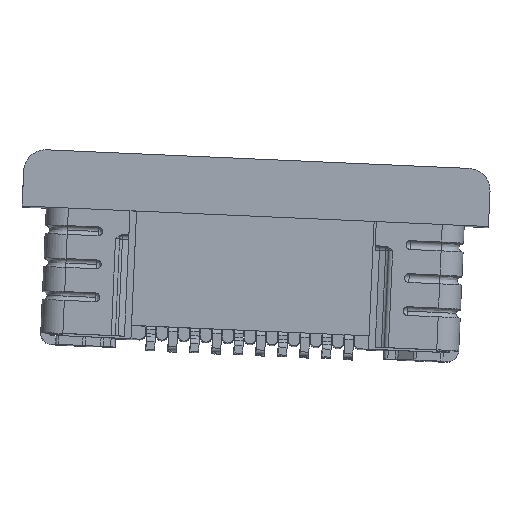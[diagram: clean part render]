
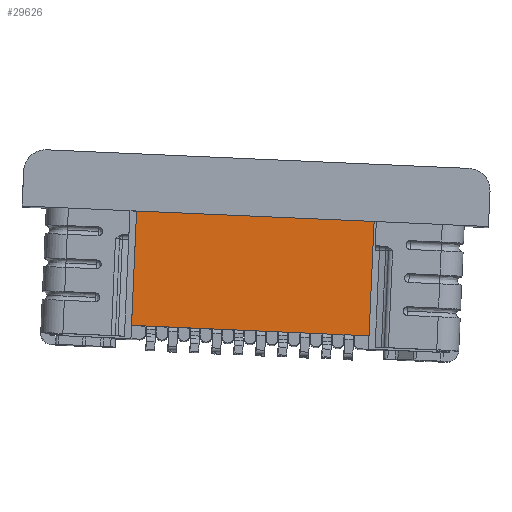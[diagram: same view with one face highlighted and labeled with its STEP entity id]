
A CAD part, front view. The second image highlights one B-rep face of the part: STEP entity #29626.
In plain terms, the highlighted planar face has unit normal (0.002, -1, 0.015) as drawn and (0, -1, 0) by its records, which use the part's own axes.
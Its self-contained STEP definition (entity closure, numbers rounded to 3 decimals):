
#2395 = DIRECTION ( 'NONE',  ( -1., 0., 0. ) ) ;
#5374 = EDGE_CURVE ( 'NONE', #23356, #19471, #36848, .T. ) ;
#5741 = VECTOR ( 'NONE', #31633, 1000. ) ;
#7225 = AXIS2_PLACEMENT_3D ( 'NONE', #9641, #19468, #29073 ) ;
#9314 = CARTESIAN_POINT ( 'NONE',  ( 17.7, -1., 3.284 ) ) ;
#9636 = VERTEX_POINT ( 'NONE', #14559 ) ;
#9641 = CARTESIAN_POINT ( 'NONE',  ( 8.821, -1., 3.284 ) ) ;
#9845 = DIRECTION ( 'NONE',  ( 0., 0., -1. ) ) ;
#11852 = CARTESIAN_POINT ( 'NONE',  ( 8.821, -1., 3.2 ) ) ;
#13081 = DIRECTION ( 'NONE',  ( 0., 0., 1. ) ) ;
#14559 = CARTESIAN_POINT ( 'NONE',  ( 17.7, -1., 3.2 ) ) ;
#14752 = EDGE_CURVE ( 'NONE', #26619, #9636, #30301, .T. ) ;
#16856 = EDGE_CURVE ( 'NONE', #26619, #19471, #32267, .T. ) ;
#17591 = ORIENTED_EDGE ( 'NONE', *, *, #16856, .F. ) ;
#18174 = ORIENTED_EDGE ( 'NONE', *, *, #14752, .T. ) ;
#18398 = VECTOR ( 'NONE', #13081, 1000. ) ;
#19468 = DIRECTION ( 'NONE',  ( 0., -1., 0. ) ) ;
#19471 = VERTEX_POINT ( 'NONE', #22104 ) ;
#19509 = CARTESIAN_POINT ( 'NONE',  ( 12.3, -1., 3.2 ) ) ;
#20551 = CARTESIAN_POINT ( 'NONE',  ( 17.7, -1., 0.6 ) ) ;
#20710 = ORIENTED_EDGE ( 'NONE', *, *, #5374, .T. ) ;
#22103 = EDGE_CURVE ( 'NONE', #9636, #23356, #35739, .T. ) ;
#22104 = CARTESIAN_POINT ( 'NONE',  ( 12.3, -1., 0.6 ) ) ;
#22350 = FACE_OUTER_BOUND ( 'NONE', #22746, .T. ) ;
#22746 = EDGE_LOOP ( 'NONE', ( #26402, #20710, #17591, #18174 ) ) ;
#22933 = VECTOR ( 'NONE', #2395, 1000. ) ;
#23356 = VERTEX_POINT ( 'NONE', #19509 ) ;
#25138 = CARTESIAN_POINT ( 'NONE',  ( 28.179, -1., 0.6 ) ) ;
#25957 = PLANE ( 'NONE',  #7225 ) ;
#26402 = ORIENTED_EDGE ( 'NONE', *, *, #22103, .T. ) ;
#26619 = VERTEX_POINT ( 'NONE', #20551 ) ;
#29073 = DIRECTION ( 'NONE',  ( 0., 0., -1. ) ) ;
#29626 = ADVANCED_FACE ( 'NONE', ( #22350 ), #25957, .T. ) ;
#30301 = LINE ( 'NONE', #9314, #18398 ) ;
#31633 = DIRECTION ( 'NONE',  ( -1., 0., 0. ) ) ;
#32267 = LINE ( 'NONE', #25138, #5741 ) ;
#33724 = CARTESIAN_POINT ( 'NONE',  ( 12.3, -1., 3.284 ) ) ;
#35739 = LINE ( 'NONE', #11852, #22933 ) ;
#36848 = LINE ( 'NONE', #33724, #43990 ) ;
#43990 = VECTOR ( 'NONE', #9845, 1000. ) ;
